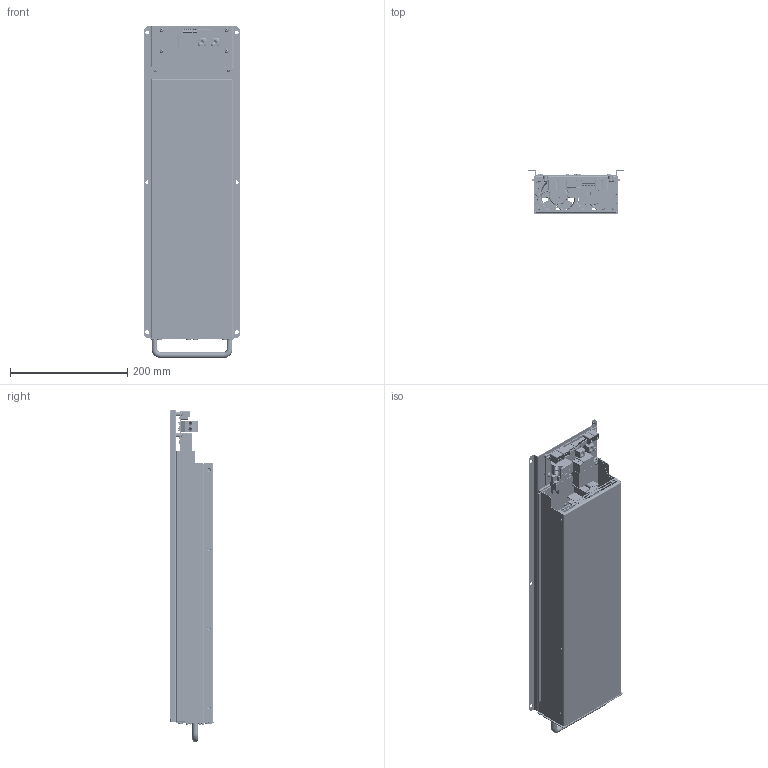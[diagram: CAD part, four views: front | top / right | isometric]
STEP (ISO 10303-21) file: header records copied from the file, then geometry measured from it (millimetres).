
FILE_DESCRIPTION(('STEP AP242'), '1');
FILE_NAME('ﾊﾀﾍ5000ﾖ30(60)ﾊ_1.a3d', '', ('UNSPECIFIED'), ('UNSPECIFIED'), 'ASCON STEP Converter 1.6', 'ASCON Math Kernel', '');
FILE_SCHEMA(('AP242_MANAGED_MODEL_BASED_3D_ENGINEERING_MIM_LF { 1 0 10303 442 1 1 4 }'));
Length unit declared in the file: millimetre
Products named in the file (105): 櫛ち.436237.011; 櫛ち.301440.013; 櫛ち.745312.032; 櫛ち.469635.038; 櫛ち.713111.002; C-6450173-01-3; C-2204416-1; 櫛ち.757538.010; 櫛ち 436238.010; 櫛ち.301629.008; 櫛ち.741238.020; 276802; 櫛ち.741134.039; 櫛ち.301411.001; 2204456-1; 6450123-3; 櫛ち.741131.005; 櫛ち.745221.002; 櫛ち.745311.001; 櫛ち.745212.005; 櫛ち.745312.047; 櫛ち.745211.001; 櫛ち.301440.044; 櫛ち.745312.061; 購葠.713111.002; 櫛ち.757538.014
Assembly tree (215 placements, depth 5):
  櫛ち.436237.011
    櫛ち.301440.013
      櫛ち.745312.032
      (unnamed)  x4
    櫛ち.469635.038
      (unnamed)
      櫛ち.713111.002  x4
      (unnamed)  x2
      (unnamed)
      (unnamed)
      (unnamed)  x2
      C-6450173-01-3
      C-2204416-1
      (unnamed)  x2
      (unnamed)
      (unnamed)
    櫛ち.757538.010
    櫛ち 436238.010
      櫛ち.301629.008
        櫛ち.741238.020
        (unnamed)  x2
          (unnamed)
          (unnamed)
          (unnamed)
          (unnamed)
          (unnamed)
          (unnamed)
        (unnamed)  x3
          (unnamed)
          (unnamed)
          (unnamed)
        276802
        (unnamed)
          (unnamed)
          (unnamed)
          (unnamed)
        (unnamed)  x2
        (unnamed)  x2
        (unnamed)  x8
        (unnamed)  x2
      櫛ち.741134.039
      (unnamed)  x11
      櫛ち.301411.001
        (unnamed)
        2204456-1
        6450123-3
        (unnamed)
          (unnamed)  x4
          櫛ち.741131.005
          櫛ち.745221.002
          櫛ち.745311.001
          櫛ち.745212.005
          櫛ち.745312.047
          櫛ち.745211.001
          (unnamed)
          (unnamed)  x6
      櫛ち.301440.044
        櫛ち.745312.061
        (unnamed)  x8
        (unnamed)
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Bounding box: 164 x 75 x 567 mm (x, y, z)
Volume: 1110640.1 mm3; surface area: 1442813.6 mm2
Topology: 209 solids, 209 shells, 14346 faces, 38835 edges, 25902 vertices
Faces by surface type: plane 9988, cylinder 3540, cone 386, extrusion 196, revolution 152, torus 37, sphere 29, bspline 18
Full cylindrical faces by diameter (mm): 0.177 x2, 0.179 x2, 0.18 x8, 0.205 x2, 0.216 x2, 0.304 x4, 0.45 x6, 0.471 x2, 0.5 x2, 0.6 x4, 0.965 x8, 1.9 x2, 2 x12, 2.013 x8, 2.35 x14, 2.4 x51, 2.459 x60, 2.5 x8, 2.8 x10, 2.9 x2, 2.921 x4, 2.95 x4, 2.98 x2, 3 x31, 3.2 x55, 3.242 x4, 3.5 x17, 3.7 x16, 3.8 x8, 4 x32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
Entity records: 396529 total; most frequent: CARTESIAN_POINT 75710, ORIENTED_EDGE 49580, DIRECTION 47804, EDGE_CURVE 24790, VECTOR 18361, LINE 18264, VERTEX_POINT 16821, AXIS2_PLACEMENT_3D 14684
